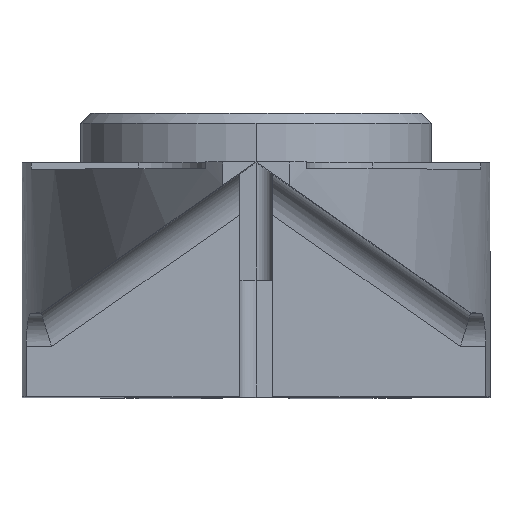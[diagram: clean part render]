
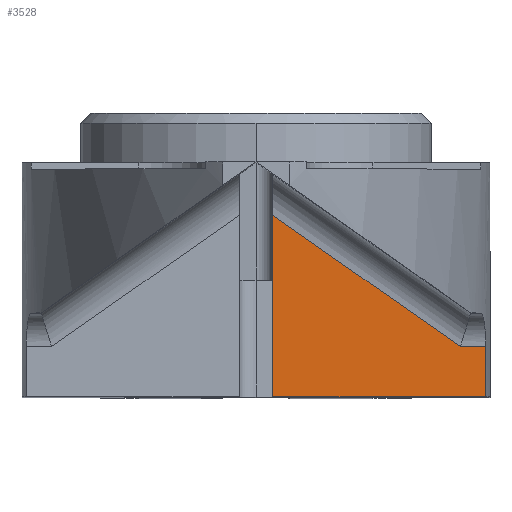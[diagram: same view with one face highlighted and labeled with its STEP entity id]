
A CAD part, top view. The second image highlights one B-rep face of the part: STEP entity #3528.
In plain terms, the highlighted planar face has unit normal (0, 0, 1).
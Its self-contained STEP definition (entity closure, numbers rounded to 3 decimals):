
#87 = CARTESIAN_POINT ( 'NONE',  ( 6.869, 1.5, 15. ) ) ;
#153 = CARTESIAN_POINT ( 'NONE',  ( 3.685, 1.5, 15. ) ) ;
#248 = ORIENTED_EDGE ( 'NONE', *, *, #2247, .F. ) ;
#462 = VERTEX_POINT ( 'NONE', #1862 ) ;
#490 = CARTESIAN_POINT ( 'NONE',  ( 0.5, 0., 15. ) ) ;
#686 = CARTESIAN_POINT ( 'NONE',  ( 6.111, 1.5, 15. ) ) ;
#789 = VECTOR ( 'NONE', #1494, 1000. ) ;
#973 = VERTEX_POINT ( 'NONE', #87 ) ;
#1019 = FACE_OUTER_BOUND ( 'NONE', #1850, .T. ) ;
#1101 = ORIENTED_EDGE ( 'NONE', *, *, #2138, .F. ) ;
#1391 = LINE ( 'NONE', #2630, #5107 ) ;
#1494 = DIRECTION ( 'NONE',  ( 0., -1., 0. ) ) ;
#1501 = CARTESIAN_POINT ( 'NONE',  ( 3.73, 0., 15. ) ) ;
#1671 = DIRECTION ( 'NONE',  ( -0.819, 0.574, 0. ) ) ;
#1850 = EDGE_LOOP ( 'NONE', ( #4266, #4996, #248, #1101, #5085 ) ) ;
#1862 = CARTESIAN_POINT ( 'NONE',  ( 0.5, 5.429, 15. ) ) ;
#2033 = EDGE_CURVE ( 'NONE', #2787, #462, #3513, .T. ) ;
#2070 = EDGE_CURVE ( 'NONE', #2483, #462, #1391, .T. ) ;
#2138 = EDGE_CURVE ( 'NONE', #973, #3460, #4995, .T. ) ;
#2180 = AXIS2_PLACEMENT_3D ( 'NONE', #3550, #2764, #4355 ) ;
#2247 = EDGE_CURVE ( 'NONE', #3460, #2483, #4866, .T. ) ;
#2483 = VERTEX_POINT ( 'NONE', #490 ) ;
#2537 = DIRECTION ( 'NONE',  ( -1., 0., 0. ) ) ;
#2630 = CARTESIAN_POINT ( 'NONE',  ( 0.5, 3.5, 15. ) ) ;
#2764 = DIRECTION ( 'NONE',  ( 0., 0., 1. ) ) ;
#2787 = VERTEX_POINT ( 'NONE', #686 ) ;
#3019 = CARTESIAN_POINT ( 'NONE',  ( 6.111, 1.5, 15. ) ) ;
#3050 = DIRECTION ( 'NONE',  ( 0., 1., 0. ) ) ;
#3130 = DIRECTION ( 'NONE',  ( -1., 0., 0. ) ) ;
#3240 = VECTOR ( 'NONE', #2537, 1000. ) ;
#3273 = VECTOR ( 'NONE', #1671, 1000. ) ;
#3460 = VERTEX_POINT ( 'NONE', #4278 ) ;
#3513 = LINE ( 'NONE', #3019, #3273 ) ;
#3528 = ADVANCED_FACE ( 'NONE', ( #1019 ), #3954, .T. ) ;
#3550 = CARTESIAN_POINT ( 'NONE',  ( 0.5, 0., 15. ) ) ;
#3954 = PLANE ( 'NONE',  #2180 ) ;
#4266 = ORIENTED_EDGE ( 'NONE', *, *, #2033, .T. ) ;
#4278 = CARTESIAN_POINT ( 'NONE',  ( 6.869, 0., 15. ) ) ;
#4286 = LINE ( 'NONE', #153, #3240 ) ;
#4355 = DIRECTION ( 'NONE',  ( 1., 0., 0. ) ) ;
#4630 = VECTOR ( 'NONE', #3130, 1000. ) ;
#4866 = LINE ( 'NONE', #1501, #4630 ) ;
#4995 = LINE ( 'NONE', #5035, #789 ) ;
#4996 = ORIENTED_EDGE ( 'NONE', *, *, #2070, .F. ) ;
#5035 = CARTESIAN_POINT ( 'NONE',  ( 6.869, 3.5, 15. ) ) ;
#5069 = EDGE_CURVE ( 'NONE', #973, #2787, #4286, .T. ) ;
#5085 = ORIENTED_EDGE ( 'NONE', *, *, #5069, .T. ) ;
#5107 = VECTOR ( 'NONE', #3050, 1000. ) ;
